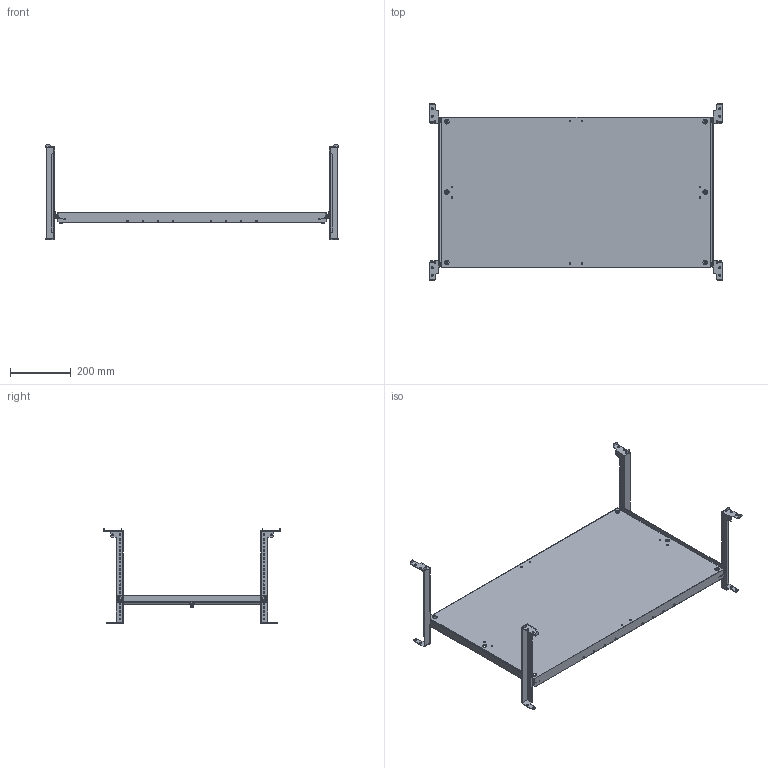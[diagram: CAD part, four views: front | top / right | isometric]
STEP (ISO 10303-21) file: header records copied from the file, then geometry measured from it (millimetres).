
FILE_DESCRIPTION (( 'STEP AP214' ), '1' );
FILE_NAME ('FO-00-MPU-050-100 Ïàíåëü ìîíòàæíàÿ óíèâåðñàëüíàÿ 500õ1000 ìì.STEP', '2025-07-16T08:50:06', ( '' ), ( '' ), 'SwSTEP 2.0', 'SolidWorks 2023', '' );
FILE_SCHEMA (( 'AUTOMOTIVE_DESIGN' ));
Length unit declared in the file: millimetre
Products named in the file (5): Винты DIN 912 4xM6x20 500x1000; Панель монтажная универсальная 500х1000 мм; Траверса горизонтальная; Траверса горизонтальнаяD; FO-00-MPU-050-100 Панель монтажная универсальная 500х1000 мм
Assembly tree (6 placements, depth 2):
  FO-00-MPU-050-100 Панель монтажная универсальная 500х1000 мм
    Панель монтажная универсальная 500х1000 мм
    Винты DIN 912 4xM6x20 500x1000
    Траверса горизонтальная  x2
    Траверса горизонтальнаяD  x2
Bounding box: 966 x 585 x 314.5 mm (x, y, z)
Volume: 1396686.5 mm3; surface area: 1419370.8 mm2
Topology: 9 solids, 15 shells, 1132 faces, 3092 edges, 2058 vertices
Faces by surface type: cylinder 508, plane 502, cone 82, bspline 40
Entity records: 33905 total; most frequent: CARTESIAN_POINT 10329, ORIENTED_EDGE 4852, DIRECTION 4850, EDGE_CURVE 2426, AXIS2_PLACEMENT_3D 1771, VERTEX_POINT 1614, LINE 1308, VECTOR 1308
